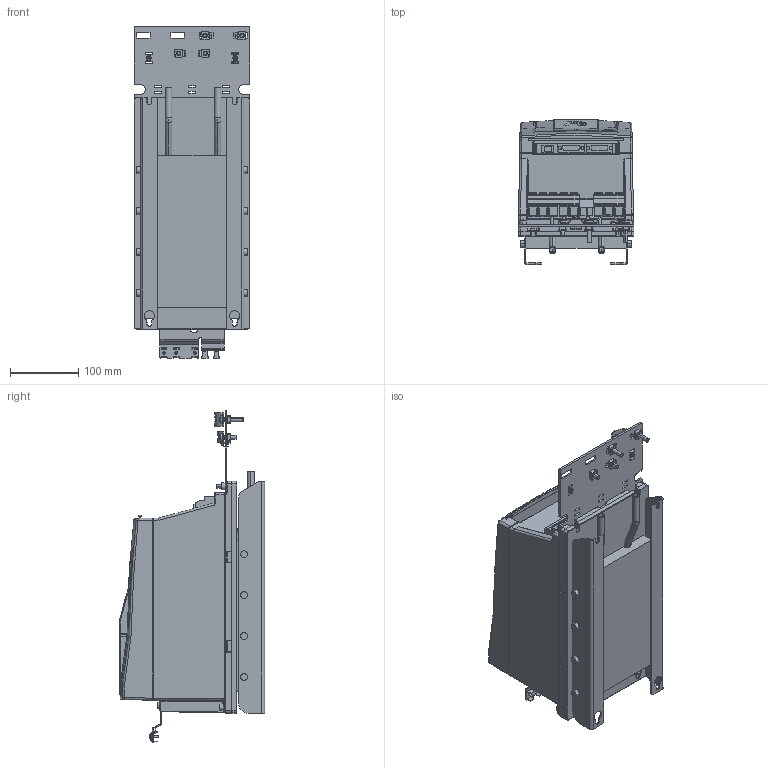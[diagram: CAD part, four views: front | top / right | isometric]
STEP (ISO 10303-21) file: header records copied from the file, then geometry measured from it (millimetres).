
FILE_DESCRIPTION (( 'STEP AP214' ), '1' );
FILE_NAME ('F6-3 TW0-K001.STEP', '2024-08-27T10:01:46', ( '' ), ( '' ), 'SwSTEP 2.0', 'SolidWorks 2022', '' );
FILE_SCHEMA (( 'AUTOMOTIVE_DESIGN' ));
Length unit declared in the file: millimetre
Products named in the file (13): Kundenmodell^10068344_000; F6-3 TW0-K001; Kundenmodell^10040482_000; 10061030_000_Kundenmodell; 10059764_000_Blindabdeckung (Kundenmodell); Kundenmodell^10047114_000; 10040482_000_Kundenmodell; Kundenmodell^10059764_000; 10047114_000_Kundenmodell; 10068344_000_Leistungsteil TR0 (Kundenmodell); Kundenmodell^10061030_000; Kundenmodell^10035735_000; 10035735_000_Kundenmodell
Assembly tree (12 placements, depth 4):
  F6-3 TW0-K001
    10068344_000_Leistungsteil TR0 (Kundenmodell)
      Kundenmodell^10068344_000
    10040482_000_Kundenmodell
      Kundenmodell^10040482_000
    10035735_000_Kundenmodell
      10059764_000_Blindabdeckung (Kundenmodell)
        Kundenmodell^10059764_000
      Kundenmodell^10035735_000
    10061030_000_Kundenmodell
      Kundenmodell^10061030_000
    10047114_000_Kundenmodell
      Kundenmodell^10047114_000
Bounding box: 170 x 212.96 x 486.8 mm (x, y, z)
Volume: 8141089 mm3; surface area: 702791.6 mm2
Topology: 16 solids, 29 shells, 3460 faces, 9087 edges, 5761 vertices
Faces by surface type: plane 1597, cylinder 1169, bspline 372, cone 153, torus 115, sphere 54
Entity records: 120626 total; most frequent: CARTESIAN_POINT 33600, ORIENTED_EDGE 18054, DIRECTION 16350, EDGE_CURVE 9027, VERTEX_POINT 5761, AXIS2_PLACEMENT_3D 5689, LINE 4972, VECTOR 4972
